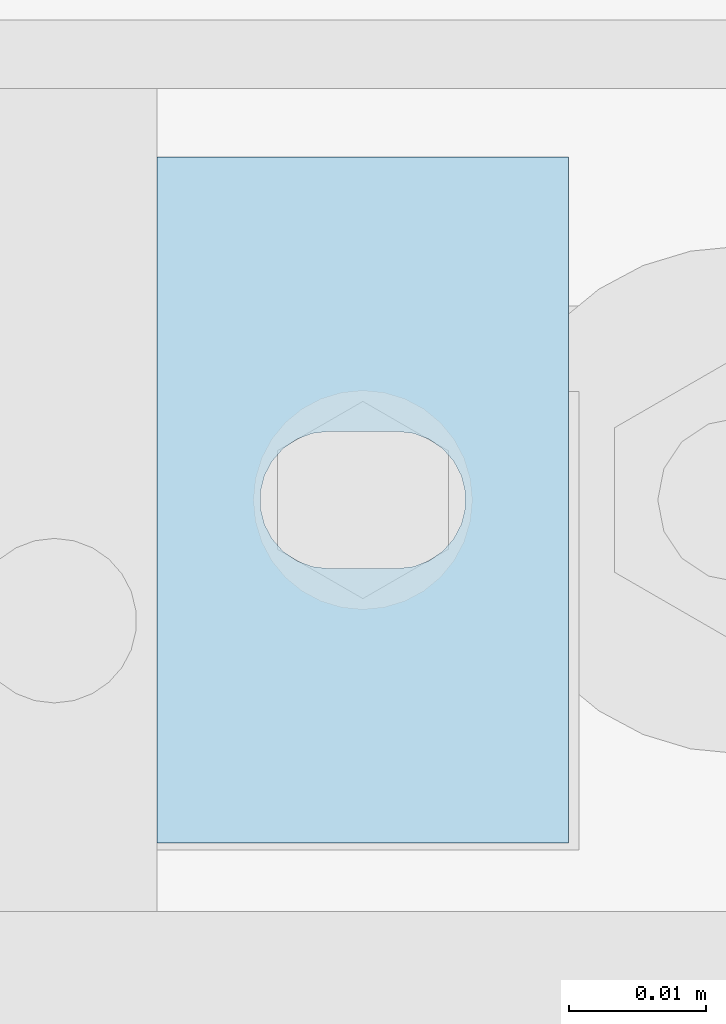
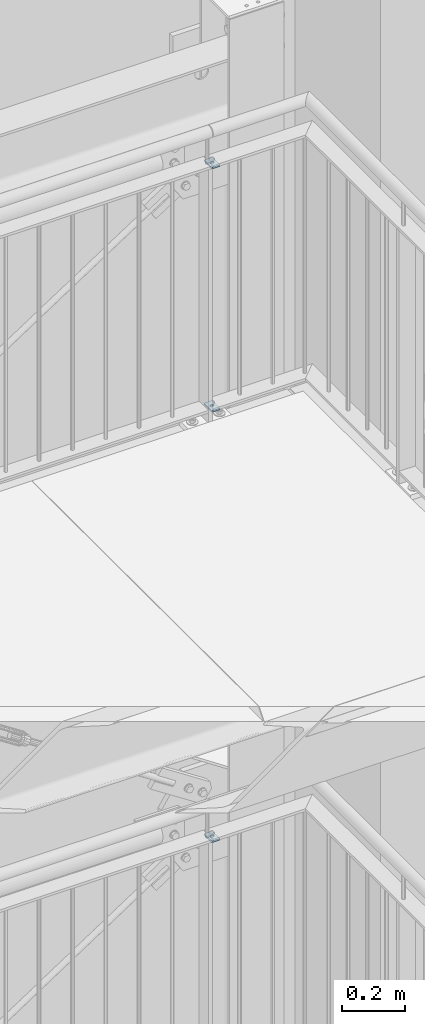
# One storey, part 230 of 821: 3 plates, 3 openings.
"""IFC2X3 building model written with IfcOpenShell, lengths in millimetres."""

from ifc_helpers import new_model, entity, si_unit, converted_unit, point, frame, frame_2d, origin, origin_with_axes, place, context, project, spatial, polyline, circle_curve, line_curve, trimmed, segment, composite_curve, outline, extrude, material, layer, layer_set, element, save


model = new_model("IFC2X3")

# Units and contexts
model_context = context("Model", 3, precision=1e-09, world=origin_with_axes())
ifc_project = project(units=[si_unit("LENGTHUNIT", "METRE", prefix="MILLI"), si_unit("AREAUNIT", "SQUARE_METRE"), si_unit("VOLUMEUNIT", "CUBIC_METRE"), converted_unit("PLANEANGLEUNIT", "DEGREE", entity("IfcPlaneAngleMeasure", 0.01745329), si_unit("PLANEANGLEUNIT", "RADIAN"), dimensions=[0, 0, 0, 0, 0, 0, 0])], contexts=[model_context])

# Site, building, storey
site_placement = place(None, origin_with_axes())
site = spatial("IfcSite", under=ifc_project, at=site_placement, Name="Cnopf'sche Kinderklinik", CompositionType="ELEMENT")
building_placement = place(site_placement, origin_with_axes())
building = spatial("IfcBuilding", under=site, at=building_placement, Name="Struktur 1", CompositionType="ELEMENT")
storey_placement = place(building_placement, origin_with_axes())
storey = spatial("IfcBuildingStorey", under=building, at=storey_placement, Name="Default Storey", CompositionType="ELEMENT", Elevation=0.0)

# Plate, opening
ifc_material = material(Name="S235JR")
ifc_layer = layer(ifc_material, 6.0)
ifc_layer_set = layer_set([ifc_layer], Name="S235JR")
plate_1_placement = place(None, frame((8664.213974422, 7356.736971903, 14899.3000001), z_axis=(0.0, 0.0, 1.0), x_axis=(1.0, 0.0, 0.0)))
plate_1 = element("IfcPlate", 1, at=plate_1_placement, inside=storey, material=ifc_layer_set, Name="-", ObjectType="-", context=model_context, shape_type="SweptSolid", body=[
    extrude(outline(polyline([(-15.0, -25.0), (15.0, -25.0), (15.0, 25.0), (-15.0, 25.0), (-15.0, -25.0)])), origin_with_axes(), (0.0, 0.0, 1.0), 6.0),
])
opening_1_placement = place(plate_1_placement, frame((-1e-09, 0.0, -0.5), z_axis=(0.0, 0.0, 1.0), x_axis=(1.0, 0.0, 0.0)))
element("IfcOpeningElement", 2, at=opening_1_placement, cuts=plate_1, ObjectType="Opening", context=model_context, shape_type="SweptSolid", body=[
    extrude(outline(composite_curve([segment(trimmed(line_curve((-2.5, -5.001), (1.0, 0.0), 5.0), [point((-2.5, -5.001))], [point((2.5, -5.001))], True, "CARTESIAN"), True, "CONTINUOUS"), segment(trimmed(circle_curve(frame_2d((2.5, 0.0), x_axis=(1.0, 0.0)), 5.001), [point((2.5, -5.001))], [point((2.5, 5.001))], True, "CARTESIAN"), True, "CONTINUOUS"), segment(trimmed(line_curve((2.5, 5.001), (-1.0, 0.0), 5.0), [point((2.5, 5.001))], [point((-2.5, 5.001))], True, "CARTESIAN"), True, "CONTINUOUS"), segment(trimmed(circle_curve(frame_2d((-2.5, 0.0), x_axis=(1.0, 0.0)), 5.001), [point((-2.5, 5.001))], [point((-2.5, -5.001))], True, "CARTESIAN"), True, "CONTINUOUS")], self_intersect=False)), origin(), (0.0, 0.0, 1.0), 7.0),
])

plate_2_placement = place(None, frame((8664.213974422, 7356.736971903, 16578.0000003), z_axis=(0.0, 0.0, 1.0), x_axis=(1.0, 0.0, 0.0)))
plate_2 = element("IfcPlate", 3, at=plate_2_placement, inside=storey, material=ifc_layer_set, Name="-", ObjectType="-", context=model_context, shape_type="SweptSolid", body=[
    extrude(outline(polyline([(-15.0, -25.0), (15.0, -25.0), (15.0, 25.0), (-15.0, 25.0), (-15.0, -25.0)])), origin_with_axes(), (0.0, 0.0, 1.0), 6.0),
])
opening_2_placement = place(plate_2_placement, frame((-1e-09, 0.0, -0.5), z_axis=(0.0, 0.0, 1.0), x_axis=(1.0, 0.0, 0.0)))
element("IfcOpeningElement", 4, at=opening_2_placement, cuts=plate_2, ObjectType="Opening", context=model_context, shape_type="SweptSolid", body=[
    extrude(outline(composite_curve([segment(trimmed(line_curve((-2.5, -5.001), (1.0, 0.0), 5.0), [point((-2.5, -5.001))], [point((2.5, -5.001))], True, "CARTESIAN"), True, "CONTINUOUS"), segment(trimmed(circle_curve(frame_2d((2.5, 0.0), x_axis=(1.0, 0.0)), 5.001), [point((2.5, -5.001))], [point((2.5, 5.001))], True, "CARTESIAN"), True, "CONTINUOUS"), segment(trimmed(line_curve((2.5, 5.001), (-1.0, 0.0), 5.0), [point((2.5, 5.001))], [point((-2.5, 5.001))], True, "CARTESIAN"), True, "CONTINUOUS"), segment(trimmed(circle_curve(frame_2d((-2.5, 0.0), x_axis=(1.0, 0.0)), 5.001), [point((-2.5, 5.001))], [point((-2.5, -5.001))], True, "CARTESIAN"), True, "CONTINUOUS")], self_intersect=False)), origin(), (0.0, 0.0, 1.0), 7.0),
])

plate_3_placement = place(None, frame((8664.213974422, 7356.736971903, 17526.8000003), z_axis=(0.0, 0.0, 1.0), x_axis=(1.0, 0.0, 0.0)))
plate_3 = element("IfcPlate", 5, at=plate_3_placement, inside=storey, material=ifc_layer_set, Name="-", ObjectType="-", context=model_context, shape_type="SweptSolid", body=[
    extrude(outline(polyline([(-15.0, -25.0), (15.0, -25.0), (15.0, 25.0), (-15.0, 25.0), (-15.0, -25.0)])), origin_with_axes(), (0.0, 0.0, 1.0), 6.0),
])
opening_3_placement = place(plate_3_placement, frame((-1e-09, 0.0, -0.5), z_axis=(0.0, 0.0, 1.0), x_axis=(1.0, 0.0, 0.0)))
element("IfcOpeningElement", 6, at=opening_3_placement, cuts=plate_3, ObjectType="Opening", context=model_context, shape_type="SweptSolid", body=[
    extrude(outline(composite_curve([segment(trimmed(line_curve((-2.5, -5.001), (1.0, 0.0), 5.0), [point((-2.5, -5.001))], [point((2.5, -5.001))], True, "CARTESIAN"), True, "CONTINUOUS"), segment(trimmed(circle_curve(frame_2d((2.5, 0.0), x_axis=(1.0, 0.0)), 5.001), [point((2.5, -5.001))], [point((2.5, 5.001))], True, "CARTESIAN"), True, "CONTINUOUS"), segment(trimmed(line_curve((2.5, 5.001), (-1.0, 0.0), 5.0), [point((2.5, 5.001))], [point((-2.5, 5.001))], True, "CARTESIAN"), True, "CONTINUOUS"), segment(trimmed(circle_curve(frame_2d((-2.5, 0.0), x_axis=(1.0, 0.0)), 5.001), [point((-2.5, 5.001))], [point((-2.5, -5.001))], True, "CARTESIAN"), True, "CONTINUOUS")], self_intersect=False)), origin(), (0.0, 0.0, 1.0), 7.0),
])

save(model, "model.ifc")
